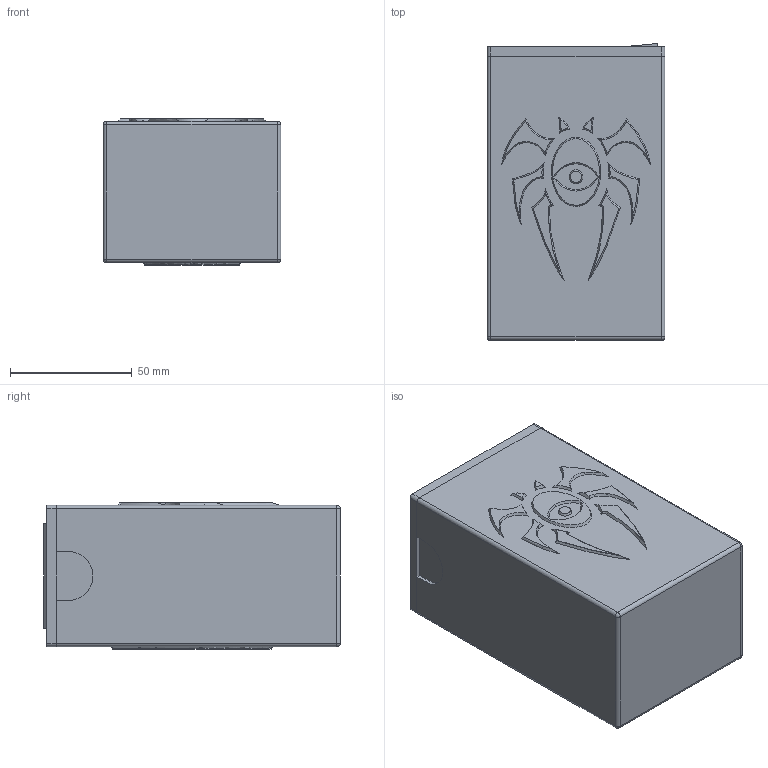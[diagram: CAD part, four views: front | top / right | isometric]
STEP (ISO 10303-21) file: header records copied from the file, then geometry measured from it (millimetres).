
FILE_DESCRIPTION(/* description */ (''),/* implementation_level */ '2;1');
FILE_NAME(/* name */ 'c:\worker\convert-fusion-jan-2019\tmp\job-1\2\output\files\ee482f9b-9892-44a6-802c-88f32d1b21e3\7a7462c1-8850-4aec-b57f-9182ea21db18.stp',/* time_stamp */ '2019-02-06T05:02:46+00:00',/* author */ (''),/* organization */ (''),/* preprocessor_version */ 'ST-DEVELOPER v17.2',/* originating_system */ 'Autodesk Translation Framework v7.6.0.251',/* authorisation */ '');
FILE_SCHEMA (('AUTOMOTIVE_DESIGN { 1 0 10303 214 3 1 1 }'));
Length unit declared in the file: millimetre
Products named in the file (4): Deck Vault - Dimir; DV- Upper; DV- Body; DV- Close
Assembly tree (3 placements, depth 2):
  Deck Vault - Dimir
    DV- Upper
    DV- Body
    DV- Close
Bounding box: 73 x 121.75 x 60 mm (x, y, z)
Volume: 74078.2 mm3; surface area: 95375.8 mm2
Topology: 3 solids, 3 shells, 215 faces, 535 edges, 332 vertices
Faces by surface type: bspline 117, plane 67, cylinder 26, sphere 4, cone 1
Entity records: 15324 total; most frequent: CARTESIAN_POINT 11091, ORIENTED_EDGE 1054, EDGE_CURVE 527, DIRECTION 486, VERTEX_POINT 332, B_SPLINE_CURVE_WITH_KNOTS 281, EDGE_LOOP 229, FACE_OUTER_BOUND 215
